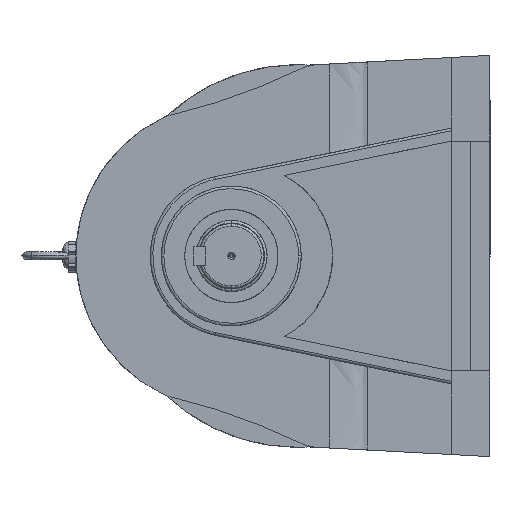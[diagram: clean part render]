
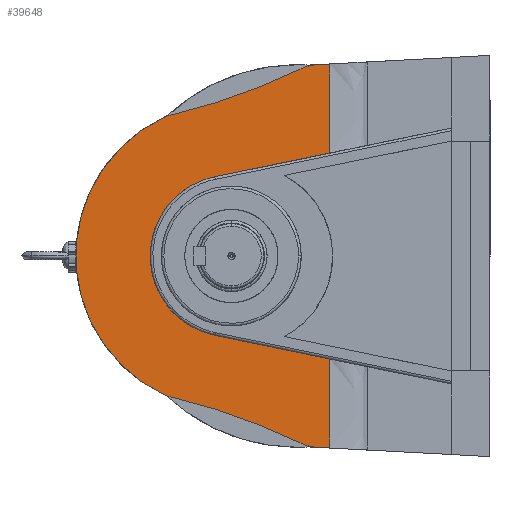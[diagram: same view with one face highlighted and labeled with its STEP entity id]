
A CAD part, left-side view. The second image highlights one B-rep face of the part: STEP entity #39648.
In plain terms, the highlighted planar face has unit normal (-1, 0, 0).
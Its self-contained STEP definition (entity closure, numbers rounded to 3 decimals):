
#395 = DIRECTION ( 'NONE',  ( 0., -0.979, 0.202 ) ) ;
#767 = CIRCLE ( 'NONE', #86403, 491.905 ) ;
#2263 = VERTEX_POINT ( 'NONE', #8521 ) ;
#3287 = CIRCLE ( 'NONE', #10534, 25. ) ;
#5178 = DIRECTION ( 'NONE',  ( 1., 0., 0. ) ) ;
#6359 = ORIENTED_EDGE ( 'NONE', *, *, #39822, .T. ) ;
#6480 = CIRCLE ( 'NONE', #17038, 25. ) ;
#6503 = CARTESIAN_POINT ( 'NONE',  ( 22., 123.914, -79.481 ) ) ;
#6698 = ORIENTED_EDGE ( 'NONE', *, *, #74649, .T. ) ;
#6772 = VERTEX_POINT ( 'NONE', #6503 ) ;
#7216 = DIRECTION ( 'NONE',  ( -1., 0., 0. ) ) ;
#7601 = VERTEX_POINT ( 'NONE', #44312 ) ;
#7832 = EDGE_LOOP ( 'NONE', ( #6698, #53327, #97939, #30926, #6359, #29234, #78315, #67447, #106658, #74109, #20691, #54839, #18743, #105601 ) ) ;
#8521 = CARTESIAN_POINT ( 'NONE',  ( 22., 247.234, 108.773 ) ) ;
#8566 = CARTESIAN_POINT ( 'NONE',  ( 22., 252.209, 107.035 ) ) ;
#10534 = AXIS2_PLACEMENT_3D ( 'NONE', #39844, #39721, #39618 ) ;
#11952 = VECTOR ( 'NONE', #30420, 1000. ) ;
#17038 = AXIS2_PLACEMENT_3D ( 'NONE', #40982, #40850, #40770 ) ;
#17324 = LINE ( 'NONE', #71412, #58913 ) ;
#18743 = ORIENTED_EDGE ( 'NONE', *, *, #59252, .T. ) ;
#20691 = ORIENTED_EDGE ( 'NONE', *, *, #91418, .T. ) ;
#23581 = CIRCLE ( 'NONE', #54375, 491.905 ) ;
#23622 = LINE ( 'NONE', #33466, #86845 ) ;
#23727 = CARTESIAN_POINT ( 'NONE',  ( 22., 134.887, -147.774 ) ) ;
#25041 = CARTESIAN_POINT ( 'NONE',  ( 22., 144.481, -145.293 ) ) ;
#25246 = AXIS2_PLACEMENT_3D ( 'NONE', #90184, #40975, #98297 ) ;
#26119 = EDGE_CURVE ( 'NONE', #6772, #52588, #31456, .T. ) ;
#26224 = DIRECTION ( 'NONE',  ( 1., 0., 0. ) ) ;
#28192 = AXIS2_PLACEMENT_3D ( 'NONE', #29262, #7216, #70183 ) ;
#28579 = VERTEX_POINT ( 'NONE', #51915 ) ;
#29234 = ORIENTED_EDGE ( 'NONE', *, *, #80555, .T. ) ;
#29262 = CARTESIAN_POINT ( 'NONE',  ( 22., 200., 0. ) ) ;
#29470 = FACE_OUTER_BOUND ( 'NONE', #7832, .T. ) ;
#30058 = CARTESIAN_POINT ( 'NONE',  ( 22., 123.914, -79.481 ) ) ;
#30420 = DIRECTION ( 'NONE',  ( 0., 0.979, 0.202 ) ) ;
#30926 = ORIENTED_EDGE ( 'NONE', *, *, #52896, .T. ) ;
#31213 = EDGE_CURVE ( 'NONE', #7601, #90878, #767, .T. ) ;
#31313 = CIRCLE ( 'NONE', #25246, 118.39 ) ;
#31456 = LINE ( 'NONE', #30058, #11952 ) ;
#33244 = AXIS2_PLACEMENT_3D ( 'NONE', #75626, #26224, #83915 ) ;
#33255 = DIRECTION ( 'NONE',  ( 0., 0., 1. ) ) ;
#33466 = CARTESIAN_POINT ( 'NONE',  ( 22., 123.914, 0. ) ) ;
#38846 = DIRECTION ( 'NONE',  ( 0., 0., 1. ) ) ;
#38930 = DIRECTION ( 'NONE',  ( 1., 0., 0. ) ) ;
#38949 = CARTESIAN_POINT ( 'NONE',  ( 22., 359.578, -587.678 ) ) ;
#39618 = DIRECTION ( 'NONE',  ( 0., 0., -1. ) ) ;
#39648 = ADVANCED_FACE ( 'NONE', ( #29470 ), #56465, .T. ) ;
#39721 = DIRECTION ( 'NONE',  ( -1., 0., 0. ) ) ;
#39822 = EDGE_CURVE ( 'NONE', #46599, #88149, #58018, .T. ) ;
#39844 = CARTESIAN_POINT ( 'NONE',  ( 22., 241.524, 84.434 ) ) ;
#40770 = DIRECTION ( 'NONE',  ( 0., 0., 1. ) ) ;
#40850 = DIRECTION ( 'NONE',  ( -1., 0., 0. ) ) ;
#40970 = CARTESIAN_POINT ( 'NONE',  ( 22., 133.549, 122.81 ) ) ;
#40975 = DIRECTION ( 'NONE',  ( -1., 0., 0. ) ) ;
#40982 = CARTESIAN_POINT ( 'NONE',  ( 22., 133.549, -122.81 ) ) ;
#40994 = LINE ( 'NONE', #82751, #76985 ) ;
#41522 = AXIS2_PLACEMENT_3D ( 'NONE', #93057, #43893, #101156 ) ;
#42019 = VERTEX_POINT ( 'NONE', #78162 ) ;
#43893 = DIRECTION ( 'NONE',  ( -1., 0., 0. ) ) ;
#44312 = CARTESIAN_POINT ( 'NONE',  ( 22., 247.21, -108.779 ) ) ;
#45907 = CARTESIAN_POINT ( 'NONE',  ( 22., 123.914, 79.481 ) ) ;
#46599 = VERTEX_POINT ( 'NONE', #23727 ) ;
#46963 = DIRECTION ( 'NONE',  ( 0., 0., 1. ) ) ;
#47525 = VECTOR ( 'NONE', #51825, 1000. ) ;
#48329 = EDGE_CURVE ( 'NONE', #2263, #60746, #3287, .T. ) ;
#49276 = DIRECTION ( 'NONE',  ( 0., 0., 1. ) ) ;
#50913 = EDGE_CURVE ( 'NONE', #80519, #94129, #23622, .T. ) ;
#51825 = DIRECTION ( 'NONE',  ( 0., 0.999, -0.053 ) ) ;
#51886 = CARTESIAN_POINT ( 'NONE',  ( 22., 212.607, 61.215 ) ) ;
#51915 = CARTESIAN_POINT ( 'NONE',  ( 22., 252.178, -107.044 ) ) ;
#52490 = CARTESIAN_POINT ( 'NONE',  ( 22., 212.607, -61.215 ) ) ;
#52588 = VERTEX_POINT ( 'NONE', #52490 ) ;
#52896 = EDGE_CURVE ( 'NONE', #90878, #46599, #6480, .T. ) ;
#53327 = ORIENTED_EDGE ( 'NONE', *, *, #92531, .T. ) ;
#53415 = CARTESIAN_POINT ( 'NONE',  ( 22., 123.914, 148.362 ) ) ;
#54375 = AXIS2_PLACEMENT_3D ( 'NONE', #54917, #5178, #63193 ) ;
#54822 = VERTEX_POINT ( 'NONE', #90729 ) ;
#54839 = ORIENTED_EDGE ( 'NONE', *, *, #104174, .F. ) ;
#54917 = CARTESIAN_POINT ( 'NONE',  ( 22., 359.578, 587.678 ) ) ;
#56465 = PLANE ( 'NONE',  #28192 ) ;
#57002 = CIRCLE ( 'NONE', #95158, 25. ) ;
#58018 = LINE ( 'NONE', #101553, #101374 ) ;
#58913 = VECTOR ( 'NONE', #46963, 1000. ) ;
#59252 = EDGE_CURVE ( 'NONE', #42019, #2263, #23581, .T. ) ;
#60746 = VERTEX_POINT ( 'NONE', #8566 ) ;
#63193 = DIRECTION ( 'NONE',  ( 0., 0., 1. ) ) ;
#66850 = EDGE_CURVE ( 'NONE', #52588, #69496, #102896, .T. ) ;
#67447 = ORIENTED_EDGE ( 'NONE', *, *, #66850, .T. ) ;
#69496 = VERTEX_POINT ( 'NONE', #51886 ) ;
#70183 = DIRECTION ( 'NONE',  ( 0., 0., 1. ) ) ;
#71412 = CARTESIAN_POINT ( 'NONE',  ( 22., 123.914, 0. ) ) ;
#74109 = ORIENTED_EDGE ( 'NONE', *, *, #50913, .T. ) ;
#74649 = EDGE_CURVE ( 'NONE', #60746, #28579, #31313, .T. ) ;
#75626 = CARTESIAN_POINT ( 'NONE',  ( 22., 200., 0. ) ) ;
#76985 = VECTOR ( 'NONE', #395, 1000. ) ;
#78162 = CARTESIAN_POINT ( 'NONE',  ( 22., 144.481, 145.293 ) ) ;
#78315 = ORIENTED_EDGE ( 'NONE', *, *, #26119, .T. ) ;
#80519 = VERTEX_POINT ( 'NONE', #45907 ) ;
#80555 = EDGE_CURVE ( 'NONE', #88149, #6772, #17324, .T. ) ;
#82751 = CARTESIAN_POINT ( 'NONE',  ( 22., 212.607, 61.215 ) ) ;
#83915 = DIRECTION ( 'NONE',  ( 0., 0., 1. ) ) ;
#86095 = LINE ( 'NONE', #92613, #47525 ) ;
#86403 = AXIS2_PLACEMENT_3D ( 'NONE', #38949, #38930, #38846 ) ;
#86845 = VECTOR ( 'NONE', #33255, 1000. ) ;
#88149 = VERTEX_POINT ( 'NONE', #96390 ) ;
#90184 = CARTESIAN_POINT ( 'NONE',  ( 22., 201.61, 0.003 ) ) ;
#90729 = CARTESIAN_POINT ( 'NONE',  ( 22., 134.887, 147.774 ) ) ;
#90878 = VERTEX_POINT ( 'NONE', #25041 ) ;
#90887 = EDGE_CURVE ( 'NONE', #69496, #80519, #40994, .T. ) ;
#91418 = EDGE_CURVE ( 'NONE', #94129, #54822, #86095, .T. ) ;
#92531 = EDGE_CURVE ( 'NONE', #28579, #7601, #95852, .T. ) ;
#92613 = CARTESIAN_POINT ( 'NONE',  ( 22., 0., 155. ) ) ;
#93057 = CARTESIAN_POINT ( 'NONE',  ( 22., 241.499, -84.44 ) ) ;
#94129 = VERTEX_POINT ( 'NONE', #53415 ) ;
#95158 = AXIS2_PLACEMENT_3D ( 'NONE', #40970, #98292, #49276 ) ;
#95852 = CIRCLE ( 'NONE', #41522, 25. ) ;
#96390 = CARTESIAN_POINT ( 'NONE',  ( 22., 123.914, -148.362 ) ) ;
#97939 = ORIENTED_EDGE ( 'NONE', *, *, #31213, .T. ) ;
#98292 = DIRECTION ( 'NONE',  ( 1., 0., 0. ) ) ;
#98297 = DIRECTION ( 'NONE',  ( 0., 0., 1. ) ) ;
#101156 = DIRECTION ( 'NONE',  ( 0., 0., -1. ) ) ;
#101374 = VECTOR ( 'NONE', #102151, 1000. ) ;
#101553 = CARTESIAN_POINT ( 'NONE',  ( 22., 0., -155. ) ) ;
#102151 = DIRECTION ( 'NONE',  ( 0., -0.999, -0.053 ) ) ;
#102896 = CIRCLE ( 'NONE', #33244, 62.5 ) ;
#104174 = EDGE_CURVE ( 'NONE', #42019, #54822, #57002, .T. ) ;
#105601 = ORIENTED_EDGE ( 'NONE', *, *, #48329, .T. ) ;
#106658 = ORIENTED_EDGE ( 'NONE', *, *, #90887, .T. ) ;
